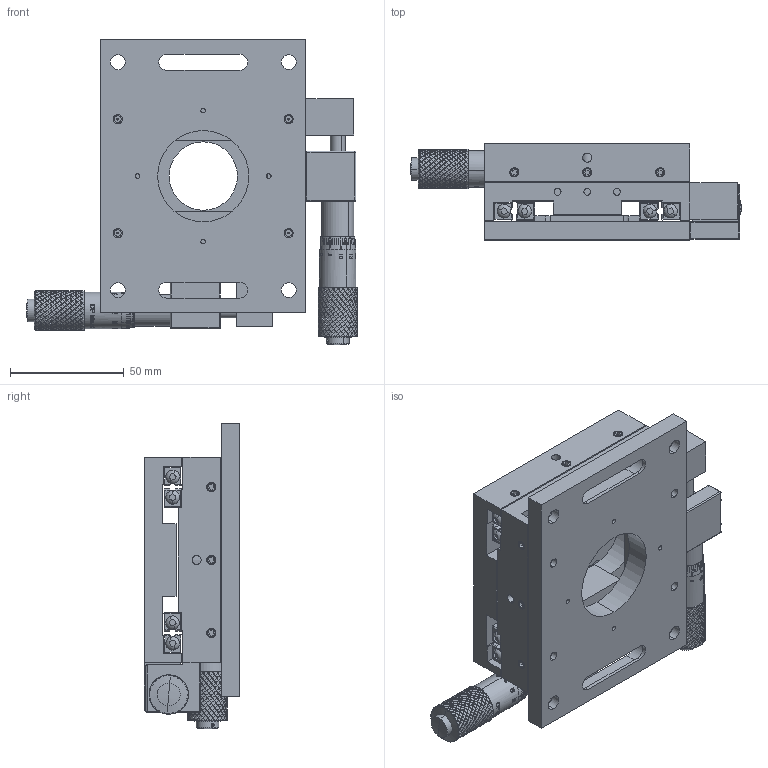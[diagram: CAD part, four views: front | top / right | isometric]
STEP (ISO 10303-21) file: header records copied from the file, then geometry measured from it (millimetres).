
FILE_DESCRIPTION (( 'STEP AP203' ), '1' );
FILE_NAME ('TSS90HXY-1.STEP', '2017-02-21T06:59:28', ( '' ), ( '' ), 'SwSTEP 2.0', 'SolidWorks 2012', '' );
FILE_SCHEMA (( 'CONFIG_CONTROL_DESIGN' ));
Products named in the file (1): TSS90HXY-1
Bounding box: 145.07 x 42 x 133.92 mm (x, y, z)
Surface area: 108837.2 mm2 (no closed solid volume)
Topology: 0 solids, 148 shells, 3699 faces, 14555 edges, 10501 vertices
Faces by surface type: bspline 1721, cylinder 1386, plane 479, cone 70, torus 28, sphere 15
Entity records: 346885 total; most frequent: CARTESIAN_POINT 257859, ORIENTED_EDGE 24129, EDGE_CURVE 14544, VERTEX_POINT 10501, DIRECTION 9896, B_SPLINE_CURVE_WITH_KNOTS 5243, EDGE_LOOP 4131, FACE_OUTER_BOUND 3699
